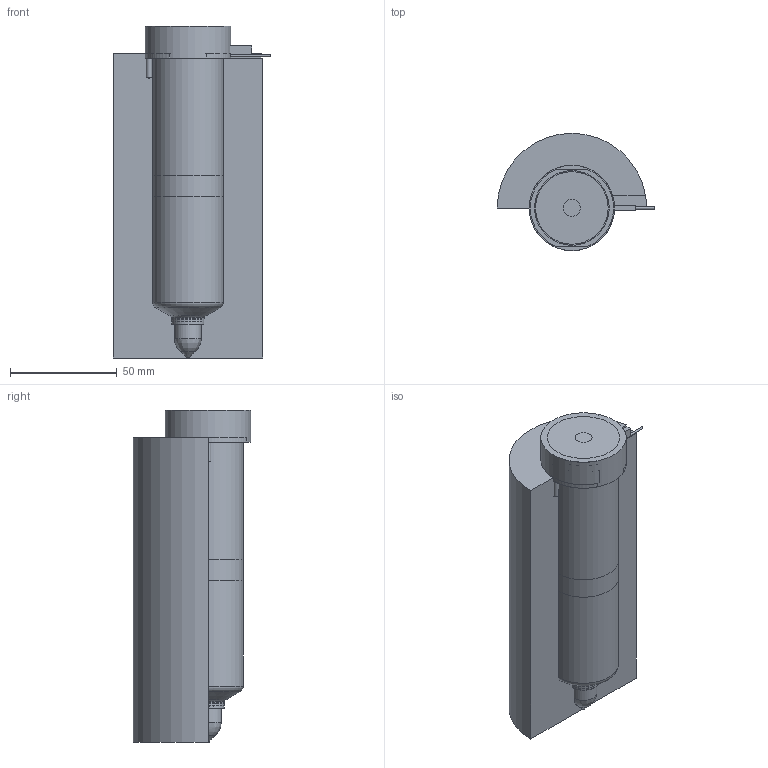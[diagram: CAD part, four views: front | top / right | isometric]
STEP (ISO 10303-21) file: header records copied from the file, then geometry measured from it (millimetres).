
FILE_DESCRIPTION(/* description */ (''),/* implementation_level */ '2;1');
FILE_NAME(/* name */ 'BXTT-BXIT19130-10_200C_b',/* time_stamp */ '2017-09-27T20:26:04+13:00',/* author */ (''),/* organization */ (''),/* preprocessor_version */ 'ST-DEVELOPER v9',/* originating_system */ 'UGS - NX 4.0',/* authorisation */ '');
FILE_SCHEMA (('AUTOMOTIVE_DESIGN { 1 0 10303 214 1 1 1 1 }'));
Length unit declared in the file: millimetre
Products named in the file (1): BXTT-BXIT19130-10_200C_b
Bounding box: 73.85 x 55 x 155.57 mm (x, y, z)
Volume: 446006.8 mm3; surface area: 68541.8 mm2
Topology: 7 solids, 7 shells, 105 faces, 227 edges, 145 vertices
Faces by surface type: plane 42, cylinder 32, cone 17, torus 11, bspline 3
Full cylindrical faces by diameter (mm): 1 x3, 1.2 x1, 2.5 x2, 8 x1, 9 x1, 12.5 x1, 14.61 x1, 15.01 x2, 18.3 x1, 28.6 x1, 33 x2, 40 x1
Entity records: 2787 total; most frequent: CARTESIAN_POINT 572, DIRECTION 477, ORIENTED_EDGE 364, AXIS2_PLACEMENT_3D 202, EDGE_CURVE 182, EDGE_LOOP 151, VERTEX_POINT 138, ADVANCED_FACE 105
